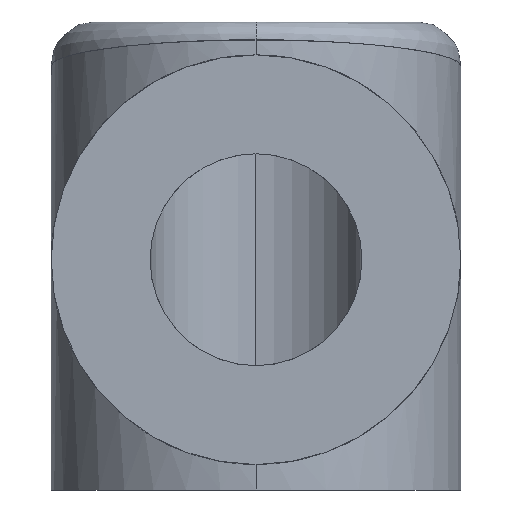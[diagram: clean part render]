
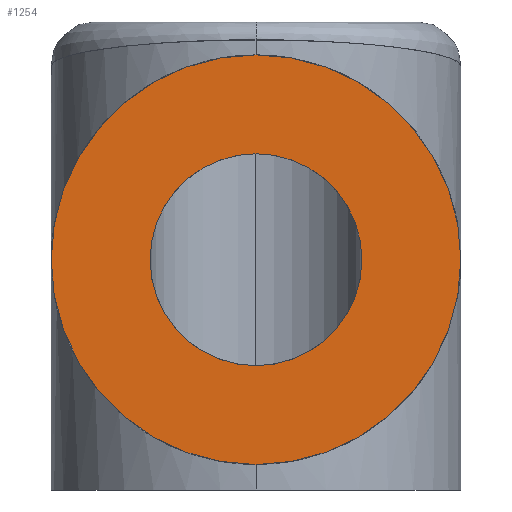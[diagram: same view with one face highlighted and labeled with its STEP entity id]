
A CAD part, front view. The second image highlights one B-rep face of the part: STEP entity #1254.
In plain terms, the highlighted planar face has unit normal (0, -1, 0) as drawn and (1, 0, 0) by its records, which use the part's own axes.
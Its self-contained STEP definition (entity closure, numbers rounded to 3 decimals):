
#75 = FACE_BOUND ( 'NONE', #197, .T. ) ;
#113 = VERTEX_POINT ( 'NONE', #1389 ) ;
#130 = AXIS2_PLACEMENT_3D ( 'NONE', #1392, #816, #580 ) ;
#182 = ORIENTED_EDGE ( 'NONE', *, *, #1471, .T. ) ;
#197 = EDGE_LOOP ( 'NONE', ( #1025, #768 ) ) ;
#198 = CIRCLE ( 'NONE', #130, 30. ) ;
#287 = DIRECTION ( 'NONE',  ( 1., 0., 0. ) ) ;
#300 = PLANE ( 'NONE',  #832 ) ;
#308 = FACE_OUTER_BOUND ( 'NONE', #455, .T. ) ;
#370 = CIRCLE ( 'NONE', #1247, 30. ) ;
#393 = CARTESIAN_POINT ( 'NONE',  ( 70.5, 0., 0. ) ) ;
#430 = DIRECTION ( 'NONE',  ( 1., 0., 0. ) ) ;
#455 = EDGE_LOOP ( 'NONE', ( #1387, #182 ) ) ;
#475 = CARTESIAN_POINT ( 'NONE',  ( 70.5, 0., 58. ) ) ;
#515 = DIRECTION ( 'NONE',  ( 0., 0., -1. ) ) ;
#580 = DIRECTION ( 'NONE',  ( 0., 0., -1. ) ) ;
#627 = CARTESIAN_POINT ( 'NONE',  ( 70.5, 0., -58. ) ) ;
#638 = VERTEX_POINT ( 'NONE', #475 ) ;
#669 = EDGE_CURVE ( 'NONE', #113, #908, #198, .T. ) ;
#687 = CIRCLE ( 'NONE', #1410, 58. ) ;
#768 = ORIENTED_EDGE ( 'NONE', *, *, #669, .F. ) ;
#816 = DIRECTION ( 'NONE',  ( 1., 0., 0. ) ) ;
#832 = AXIS2_PLACEMENT_3D ( 'NONE', #983, #1445, #1112 ) ;
#908 = VERTEX_POINT ( 'NONE', #918 ) ;
#918 = CARTESIAN_POINT ( 'NONE',  ( 70.5, 0., -30. ) ) ;
#983 = CARTESIAN_POINT ( 'NONE',  ( 70.5, 0., 0. ) ) ;
#996 = DIRECTION ( 'NONE',  ( 0., 0., -1. ) ) ;
#1016 = AXIS2_PLACEMENT_3D ( 'NONE', #1190, #1284, #1086 ) ;
#1025 = ORIENTED_EDGE ( 'NONE', *, *, #1431, .F. ) ;
#1086 = DIRECTION ( 'NONE',  ( 0., 0., -1. ) ) ;
#1112 = DIRECTION ( 'NONE',  ( 0., 0., -1. ) ) ;
#1190 = CARTESIAN_POINT ( 'NONE',  ( 70.5, 0., 0. ) ) ;
#1211 = EDGE_CURVE ( 'NONE', #1230, #638, #687, .T. ) ;
#1212 = CIRCLE ( 'NONE', #1016, 58. ) ;
#1223 = CARTESIAN_POINT ( 'NONE',  ( 70.5, 0., 0. ) ) ;
#1230 = VERTEX_POINT ( 'NONE', #627 ) ;
#1247 = AXIS2_PLACEMENT_3D ( 'NONE', #393, #287, #515 ) ;
#1254 = ADVANCED_FACE ( 'NONE', ( #75, #308 ), #300, .T. ) ;
#1284 = DIRECTION ( 'NONE',  ( 1., 0., 0. ) ) ;
#1387 = ORIENTED_EDGE ( 'NONE', *, *, #1211, .T. ) ;
#1389 = CARTESIAN_POINT ( 'NONE',  ( 70.5, 0., 30. ) ) ;
#1392 = CARTESIAN_POINT ( 'NONE',  ( 70.5, 0., 0. ) ) ;
#1410 = AXIS2_PLACEMENT_3D ( 'NONE', #1223, #430, #996 ) ;
#1431 = EDGE_CURVE ( 'NONE', #908, #113, #370, .T. ) ;
#1445 = DIRECTION ( 'NONE',  ( 1., 0., 0. ) ) ;
#1471 = EDGE_CURVE ( 'NONE', #638, #1230, #1212, .T. ) ;
